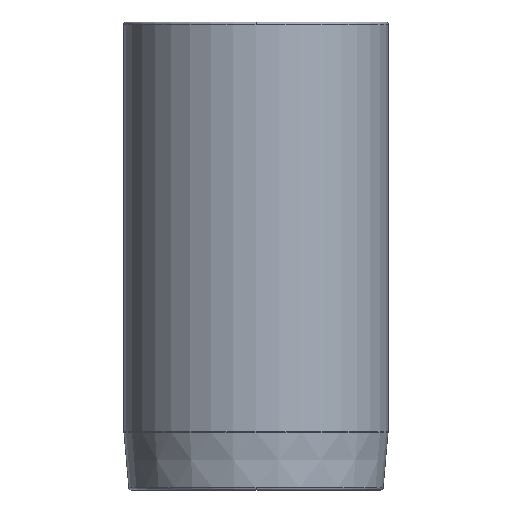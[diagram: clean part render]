
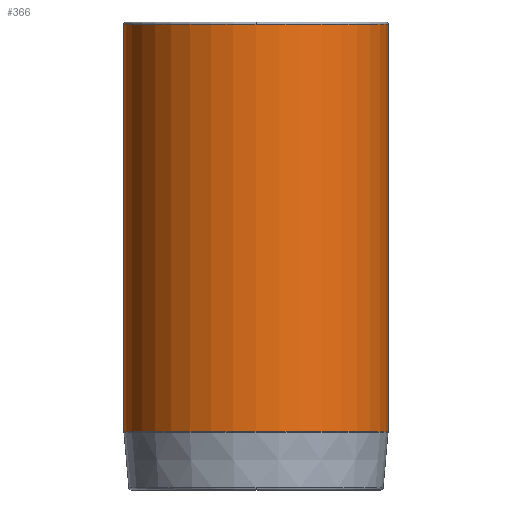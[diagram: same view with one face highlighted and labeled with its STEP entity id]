
A CAD part, front view. The second image highlights one B-rep face of the part: STEP entity #366.
In plain terms, the highlighted cylindrical face has radius 29.625 mm (diameter 59.25 mm), a partial arc.
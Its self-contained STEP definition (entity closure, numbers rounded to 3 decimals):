
#271=CARTESIAN_POINT('',(0.0,-29.625,53.5));
#272=VERTEX_POINT('',#271);
#298=CARTESIAN_POINT('',(-29.625,0.,53.5));
#299=VERTEX_POINT('',#298);
#307=CARTESIAN_POINT('',(0.0,0.,53.5));
#308=DIRECTION('',(0.0,0.0,1.0));
#309=DIRECTION('',(1.0,0.0,0.0));
#310=AXIS2_PLACEMENT_3D('',#307,#308,#309);
#311=CIRCLE('',#310,29.625);
#312=EDGE_CURVE('',#299,#272,#311,.T.);
#317=CARTESIAN_POINT('',(0.0,0.,7.772));
#318=DIRECTION('',(0.0,0.,1.0));
#319=DIRECTION('',(1.0,0.0,0.0));
#320=AXIS2_PLACEMENT_3D('',#317,#318,#319);
#321=CYLINDRICAL_SURFACE('',#320,29.625);
#322=CARTESIAN_POINT('',(29.625,0.,53.5));
#323=VERTEX_POINT('',#322);
#324=CARTESIAN_POINT('',(29.625,0.,-37.956));
#325=VERTEX_POINT('',#324);
#326=CARTESIAN_POINT('',(29.625,0.,53.5));
#327=DIRECTION('',(0.0,0.0,-1.0));
#328=VECTOR('',#327,91.456);
#329=LINE('',#326,#328);
#330=EDGE_CURVE('',#323,#325,#329,.T.);
#331=ORIENTED_EDGE('',*,*,#330,.F.);
#332=CARTESIAN_POINT('',(0.0,0.,53.5));
#333=DIRECTION('',(0.0,0.0,1.0));
#334=DIRECTION('',(1.0,0.0,0.0));
#335=AXIS2_PLACEMENT_3D('',#332,#333,#334);
#336=CIRCLE('',#335,29.625);
#337=EDGE_CURVE('',#272,#323,#336,.T.);
#338=ORIENTED_EDGE('',*,*,#337,.F.);
#339=ORIENTED_EDGE('',*,*,#312,.F.);
#340=CARTESIAN_POINT('',(-29.625,0.,-37.956));
#341=VERTEX_POINT('',#340);
#342=CARTESIAN_POINT('',(-29.625,0.,53.5));
#343=DIRECTION('',(0.0,0.0,-1.0));
#344=VECTOR('',#343,91.456);
#345=LINE('',#342,#344);
#346=EDGE_CURVE('',#299,#341,#345,.T.);
#347=ORIENTED_EDGE('',*,*,#346,.T.);
#348=CARTESIAN_POINT('',(0.0,-29.625,-37.956));
#349=VERTEX_POINT('',#348);
#350=CARTESIAN_POINT('',(0.0,0.,-37.956));
#351=DIRECTION('',(0.0,0.0,1.0));
#352=DIRECTION('',(1.0,0.0,0.0));
#353=AXIS2_PLACEMENT_3D('',#350,#351,#352);
#354=CIRCLE('',#353,29.625);
#355=EDGE_CURVE('',#341,#349,#354,.T.);
#356=ORIENTED_EDGE('',*,*,#355,.T.);
#357=CARTESIAN_POINT('',(0.0,0.,-37.956));
#358=DIRECTION('',(0.0,0.0,1.0));
#359=DIRECTION('',(1.0,0.0,0.0));
#360=AXIS2_PLACEMENT_3D('',#357,#358,#359);
#361=CIRCLE('',#360,29.625);
#362=EDGE_CURVE('',#349,#325,#361,.T.);
#363=ORIENTED_EDGE('',*,*,#362,.T.);
#364=EDGE_LOOP('',(#331,#338,#339,#347,#356,#363));
#365=FACE_OUTER_BOUND('',#364,.T.);
#366=ADVANCED_FACE('',(#365),#321,.T.);
